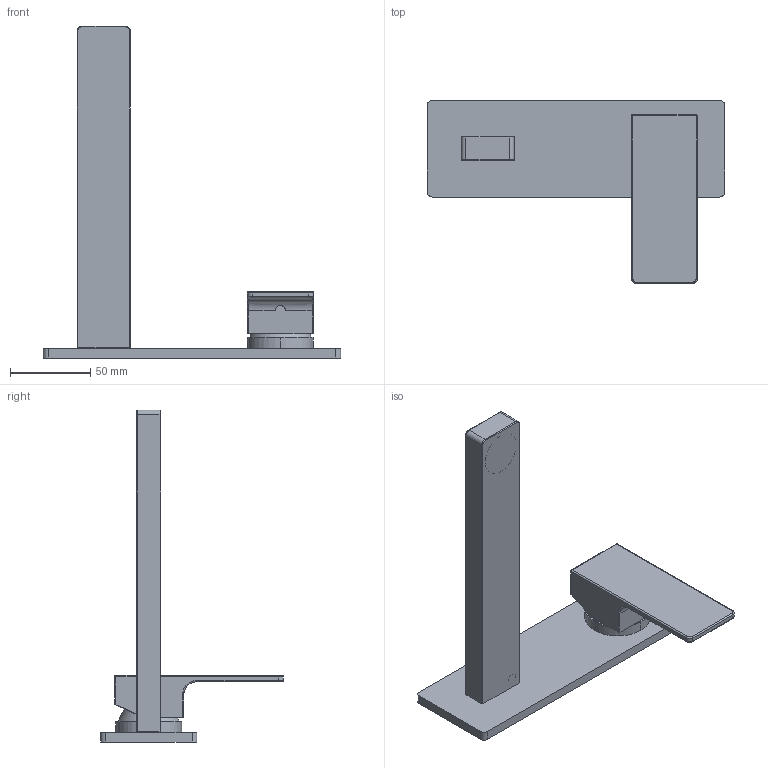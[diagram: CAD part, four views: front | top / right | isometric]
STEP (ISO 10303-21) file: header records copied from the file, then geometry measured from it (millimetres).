
FILE_DESCRIPTION(('STEP AP214'),'2;1');
FILE_NAME('DIS_3D_F613B_M111A.stp','2025-11-12T14:24:16',(''),(''),'2015.2.119','THINKDESIGN','');
FILE_SCHEMA(('AUTOMOTIVE_DESIGN'));
Length unit declared in the file: millimetre
Products named in the file (1): top
Bounding box: 185 x 113.8 x 206.5 mm (x, y, z)
Volume: 180998.1 mm3; surface area: 73313.7 mm2
Topology: 4 solids, 4 shells, 216 faces, 534 edges, 320 vertices
Faces by surface type: cylinder 85, plane 77, bspline 54
Entity records: 13400 total; most frequent: CARTESIAN_POINT 4729, ORIENTED_EDGE 1038, DIRECTION 914, EDGE_CURVE 519, STYLED_ITEM 436, PRESENTATION_STYLE_ASSIGNMENT 433, SURFACE_STYLE_USAGE 433, SURFACE_SIDE_STYLE 433
